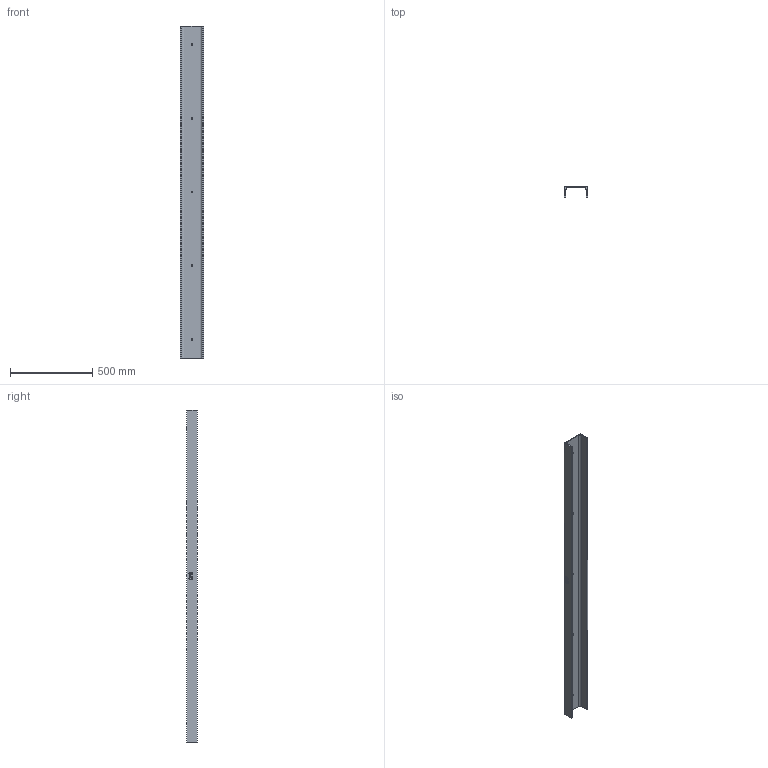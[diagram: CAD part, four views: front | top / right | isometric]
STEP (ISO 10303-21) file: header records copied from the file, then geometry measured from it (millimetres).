
FILE_DESCRIPTION (( 'STEP AP214' ), '1' );
FILE_NAME ('CCJ029-REP.078 - SUPPORT DEFENSE 2M.STEP', '2025-04-16T13:34:44', ( '' ), ( '' ), 'SwSTEP 2.0', 'SolidWorks 2021', '' );
FILE_SCHEMA (( 'AUTOMOTIVE_DESIGN' ));
Length unit declared in the file: millimetre
Products named in the file (1): CCJ029-REP.078 - SUPPORT DEFENSE 2M
Bounding box: 140 x 65 x 2020 mm (x, y, z)
Volume: 3717595.3 mm3; surface area: 1053315.9 mm2
Topology: 1 solids, 1 shells, 60 faces, 156 edges, 104 vertices
Faces by surface type: bspline 26, plane 22, cylinder 12
Entity records: 3530 total; most frequent: CARTESIAN_POINT 2155, ORIENTED_EDGE 312, DIRECTION 198, EDGE_CURVE 156, VERTEX_POINT 104, LINE 80, VECTOR 80, EDGE_LOOP 76
